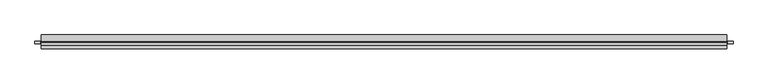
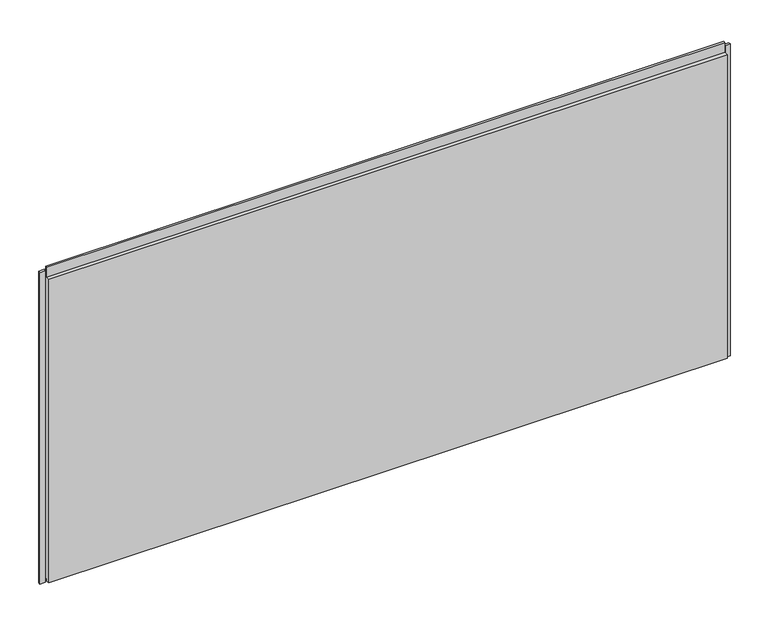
"""IFC4 building model written with IfcOpenShell, lengths in millimetres: plate geometry, Trimo_Qbiss Screen_Normal Panel-HORIZONTAL : HR - B."""

from ifc_helpers import new_model, si_unit, frame, origin, place, context, project, spatial, polyline, outline, extrude, source, transform, mapped, element, save


def plate_de628dbf(model_context):
    return source(origin(), model_context, "Body", "SweptSolid", [
        extrude(outline(polyline([(-1236.0, 76.5978162), (-1236.0, 67.8978162), (-1255.0, 67.8978162), (-1255.0, 76.5978162), (-1236.0, 76.5978162)])), frame((0.0, 0.0, -1.0), z_axis=(0.0, 0.0, 1.0), x_axis=(1.0, 0.0, 0.0)), (0.0, 0.0, 1.0), 1200.0),
        extrude(outline(polyline([(1240.5, 67.8978162), (1240.5, 76.5978162), (1259.5, 76.5978162), (1259.5, 67.8978162), (1240.5, 67.8978162)])), frame((0.0, 0.0, -1.0), z_axis=(0.0, 0.0, 1.0), x_axis=(1.0, 0.0, 0.0)), (0.0, 0.0, 1.0), 1200.0),
        extrude(outline(polyline([(1237.5, 76.0), (1237.5, 71.0), (-1233.0, 71.0), (-1233.0, 76.0), (1237.5, 76.0)])), frame((0.0, 0.0, 1178.0), z_axis=(0.0, 0.0, 1.0), x_axis=(1.0, 0.0, 0.0)), (0.0, 0.0, 1.0), 21.0),
        extrude(outline(polyline([(71.0, 1177.0), (100.0, 1177.0), (100.0, 0.0), (72.0, 0.0), (72.0, 15.5), (62.0, 15.5), (62.0, 7.0), (50.0, 7.0), (50.0, 1177.0), (63.0, 1177.0), (63.0, 1214.5), (71.0, 1214.5), (71.0, 1177.0)])), frame((-1233.0, 0.0, 0.0), z_axis=(1.0, 0.0, 0.0), x_axis=(0.0, 1.0, 0.0)), (0.0, 0.0, 1.0), 2470.5),
    ])


if __name__ == "__main__":
    model = new_model("IFC4")
    model_context = context("Model", 3, world=origin())
    ifc_project = project(units=[si_unit("LENGTHUNIT", "METRE", prefix="MILLI")], contexts=[model_context])
    site = spatial("IfcSite", under=ifc_project)
    building = spatial("IfcBuilding", under=site)
    placement = place(None, origin())
    plate_shape = plate_de628dbf(model_context)
    element("IfcPlate", 1, ObjectType="Trimo_Qbiss Screen_Normal Panel-HORIZONTAL : HR - B", at=placement, inside=building, context=model_context, shape_type="MappedRepresentation", body=[
        mapped(plate_shape, transform((0.0, 0.0, 0.0), x_axis=(1.0, 0.0, 0.0), y_axis=(0.0, 1.0, 0.0), z_axis=(0.0, 0.0, 1.0))),
    ])
    save(model, "model.ifc")
